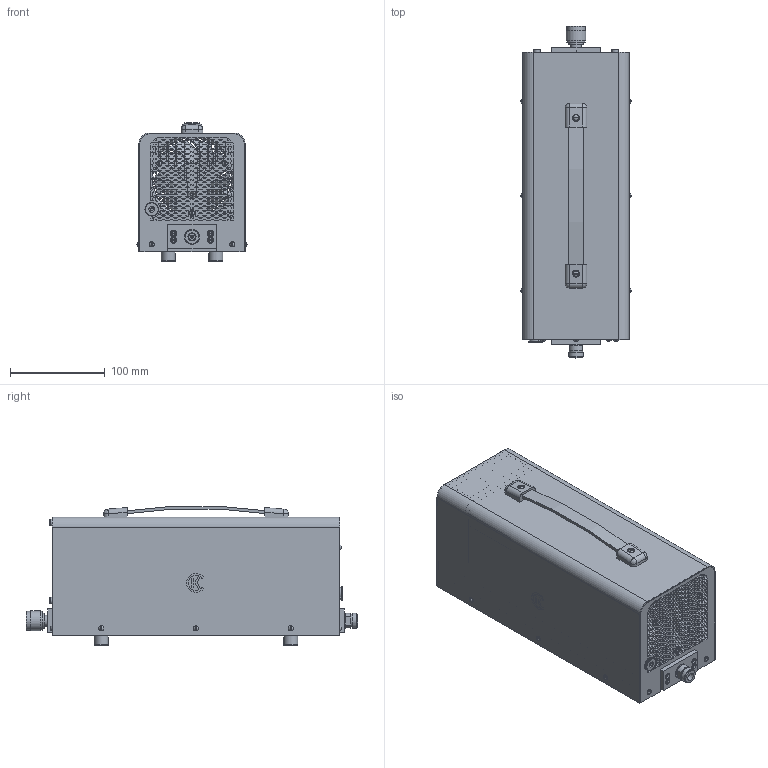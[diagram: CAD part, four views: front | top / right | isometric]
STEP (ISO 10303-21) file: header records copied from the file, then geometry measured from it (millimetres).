
FILE_DESCRIPTION(('STEP AP203'), '1');
FILE_NAME('ÏÐ1-25-1000 new', '', ('UNSPECIFIED'), ('UNSPECIFIED'), 'C3D Converter', 'C3D Toolkit', '');
FILE_SCHEMA(('CONFIG_CONTROL_DESIGN'));
Length unit declared in the file: millimetre
Products named in the file (27): Вентилятор 92x92x25; Вентилятор_винт 92x92x25; Вентилятор_основа 92x92x25; -01; #1848
Assembly tree (66 placements, depth 3):
  (unnamed)
    (unnamed)
    (unnamed)
    (unnamed)
    Вентилятор 92x92x25
      Вентилятор_винт 92x92x25
      Вентилятор_основа 92x92x25
    (unnamed)
    (unnamed)
    (unnamed)
    (unnamed)  x4
    (unnamed)  x4
    (unnamed)
    (unnamed)
    (unnamed)  x4
    (unnamed)  x4
    (unnamed)
    -01
    (unnamed)
    (unnamed)  x2
    (unnamed)
    -01
    (unnamed)  x9
    #1848  x8
    (unnamed)  x13
    -01
    (unnamed)
Bounding box: 116.15 x 350.3 x 146.57 mm (x, y, z)
Volume: 2176622.4 mm3; surface area: 969313 mm2
Topology: 64 solids, 64 shells, 5912 faces, 16904 edges, 11252 vertices
Faces by surface type: plane 5165, cylinder 506, cone 119, torus 62, bspline 41, sphere 17, extrusion 2
Full cylindrical faces by diameter (mm): 1.65 x1, 1.66 x1, 2.459 x22, 3 x32, 3.04 x2, 3.242 x4, 3.5 x16, 4 x4, 4.134 x16, 5 x19, 5.5 x41, 6 x1, 6.5 x8, 6.8 x8, 7 x9, 8.04 x1, 8.06 x1, 8.5 x21, 9 x1, 10 x1, 11 x12, 11.6 x2, 12 x1, 12.7 x1, 14 x2, 14.94 x1, 15 x4, 15.75 x1, 15.87 x1, 16 x4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
Entity records: 232793 total; most frequent: CARTESIAN_POINT 41839, ORIENTED_EDGE 31104, DIRECTION 27127, EDGE_CURVE 15552, VECTOR 14377, LINE 14375, VERTEX_POINT 10503, EDGE_LOOP 7349
